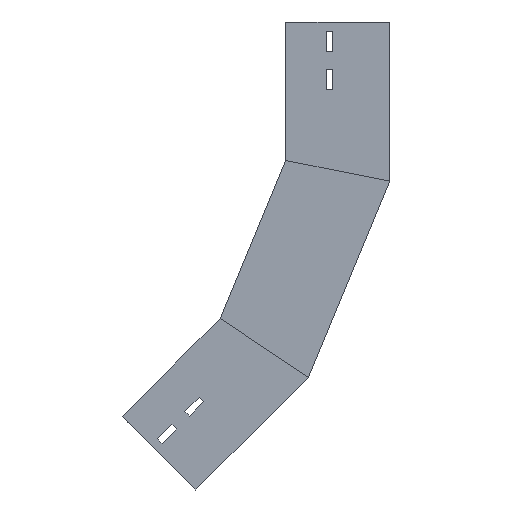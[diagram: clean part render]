
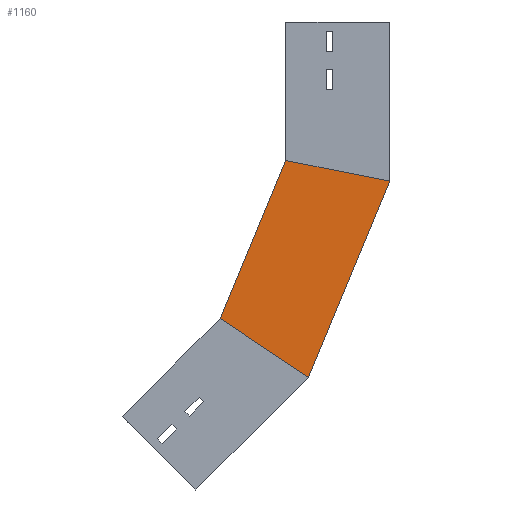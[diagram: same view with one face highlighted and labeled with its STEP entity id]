
A CAD part, left-side view. The second image highlights one B-rep face of the part: STEP entity #1160.
In plain terms, the highlighted planar face has unit normal (-1, 0, 0) as drawn and (1, 0, 0) by its records, which use the part's own axes.
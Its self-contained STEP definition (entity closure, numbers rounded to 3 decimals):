
#20 = ORIENTED_EDGE ( 'NONE', *, *, #332, .F. ) ;
#48 = PLANE ( 'NONE',  #1462 ) ;
#68 = CARTESIAN_POINT ( 'NONE',  ( 0., 112.5, -149.722 ) ) ;
#82 = CARTESIAN_POINT ( 'NONE',  ( 0., 0., -172.1 ) ) ;
#165 = LINE ( 'NONE', #939, #661 ) ;
#246 = ORIENTED_EDGE ( 'NONE', *, *, #730, .T. ) ;
#249 = FACE_OUTER_BOUND ( 'NONE', #507, .T. ) ;
#261 = CARTESIAN_POINT ( 'NONE',  ( 0., 32.93, -165.55 ) ) ;
#332 = EDGE_CURVE ( 'NONE', #704, #1307, #961, .T. ) ;
#464 = DIRECTION ( 'NONE',  ( -1., 0., 0. ) ) ;
#507 = EDGE_LOOP ( 'NONE', ( #1213, #246, #854, #20 ) ) ;
#624 = CARTESIAN_POINT ( 'NONE',  ( 0., 103.936, -129.048 ) ) ;
#629 = EDGE_CURVE ( 'NONE', #1095, #1307, #165, .T. ) ;
#640 = EDGE_CURVE ( 'NONE', #963, #704, #1337, .T. ) ;
#644 = VECTOR ( 'NONE', #842, 1000. ) ;
#661 = VECTOR ( 'NONE', #1331, 1000. ) ;
#704 = VERTEX_POINT ( 'NONE', #1448 ) ;
#730 = EDGE_CURVE ( 'NONE', #963, #1095, #910, .T. ) ;
#780 = VECTOR ( 'NONE', #1320, 1000. ) ;
#842 = DIRECTION ( 'NONE',  ( 0., 0.383, -0.924 ) ) ;
#850 = CARTESIAN_POINT ( 'NONE',  ( 0., 88.017, -384.592 ) ) ;
#854 = ORIENTED_EDGE ( 'NONE', *, *, #629, .T. ) ;
#910 = LINE ( 'NONE', #261, #1124 ) ;
#939 = CARTESIAN_POINT ( 'NONE',  ( 0., 0., -172.1 ) ) ;
#961 = LINE ( 'NONE', #1450, #780 ) ;
#963 = VERTEX_POINT ( 'NONE', #68 ) ;
#1060 = DIRECTION ( 'NONE',  ( 0., -0.981, -0.195 ) ) ;
#1095 = VERTEX_POINT ( 'NONE', #82 ) ;
#1124 = VECTOR ( 'NONE', #1060, 1000. ) ;
#1160 = ADVANCED_FACE ( 'NONE', ( #249 ), #48, .F. ) ;
#1213 = ORIENTED_EDGE ( 'NONE', *, *, #640, .F. ) ;
#1293 = CARTESIAN_POINT ( 'NONE',  ( 0., 0., -172.1 ) ) ;
#1307 = VERTEX_POINT ( 'NONE', #850 ) ;
#1320 = DIRECTION ( 'NONE',  ( 0., -0.831, -0.556 ) ) ;
#1331 = DIRECTION ( 'NONE',  ( 0., 0.383, -0.924 ) ) ;
#1337 = LINE ( 'NONE', #624, #644 ) ;
#1434 = DIRECTION ( 'NONE',  ( 0., 0., 1. ) ) ;
#1448 = CARTESIAN_POINT ( 'NONE',  ( 0., 183.39, -320.866 ) ) ;
#1450 = CARTESIAN_POINT ( 'NONE',  ( 0., 125.326, -359.663 ) ) ;
#1462 = AXIS2_PLACEMENT_3D ( 'NONE', #1293, #464, #1434 ) ;
